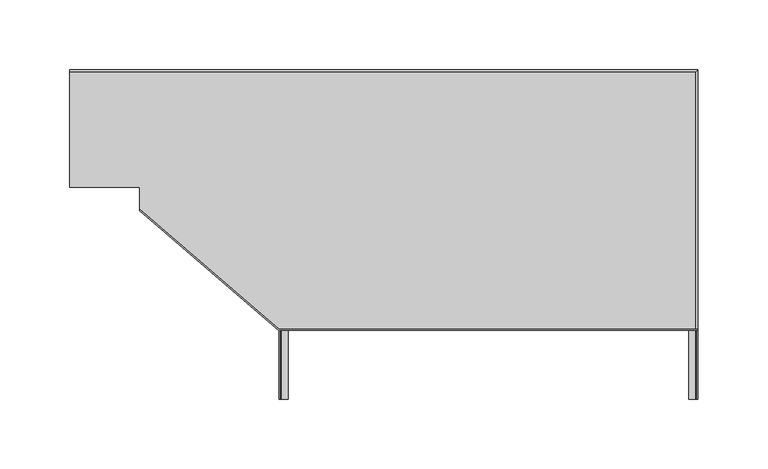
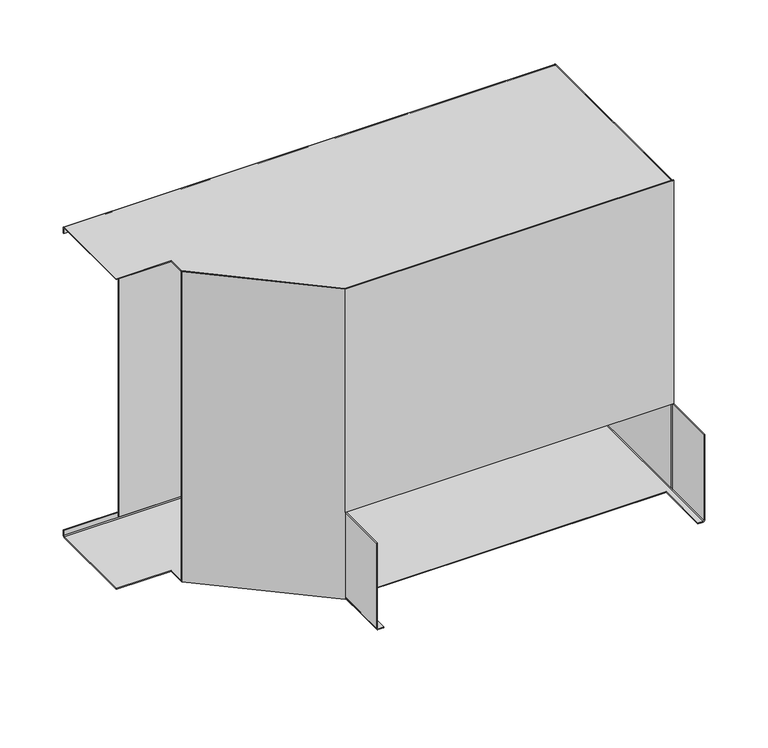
"""IFC4 building model written with IfcOpenShell, lengths in millimetres: cable carrier fitting geometry, КМ Профиль Угол внутренний вертикальный с разворотом трассы на 90 NLPD90-L : Угол внутренний вертикальный с разворотом трассы на 90 NLPD90-L."""

from ifc_helpers import new_model, si_unit, frame, origin, place, context, project, spatial, polyline, circle_curve, ellipse_curve, outline, extrude, faceted_brep, source, transform, mapped, element, save
from ifc_brep_helpers import plane_surface, cylinder_surface, revolved_surface, advanced_brep


def cable_carrier_fitting_ba0ea89d(model_context):
    return source(origin(), model_context, "Body", "SolidModel", [
        faceted_brep([(150.0, -135.8, 150.0), (-150.0, -135.8, 150.0), (-250.0, -50.0, 150.0), (-250.0, -51.0541086, 150.0), (-150.0, -136.8541086, 150.0), (-150.0, -136.6, 150.0), (150.0, -136.6, 150.0), (150.0, -135.8, -66.0), (150.0, -136.6, -66.0), (-150.0, -136.6, -66.0), (-150.0, -135.8, -66.0), (-150.0, -135.8, -150.0), (-150.0, -136.8541086, -150.0), (-250.0, -51.0541086, -150.0), (-250.0, -50.0, -150.0)], [[[0, 1, 2, 3, 4, 5, 6]], [[7, 8, 9, 10]], [[1, 0, 7, 10]], [[6, 5, 9, 8]], [[0, 6, 8, 7]], [[11, 12, 13, 14]], [[2, 1, 10, 11, 14]], [[3, 2, 14, 13]], [[4, 3, 13, 12]], [[12, 11, 10, 9, 5, 4]]]),
        extrude(outline(polyline([(-250.0, 48.4), (-250.0, 49.2), (149.2, 49.2), (149.2, -135.8), (148.4, -135.8), (148.4, 48.4), (-250.0, 48.4)])), frame((0.0, 0.0, -147.4), z_axis=(0.0, 0.0, 1.0), x_axis=(1.0, 0.0, 0.0)), (0.0, 0.0, 1.0), 294.8),
        advanced_brep(
        [(-250.0, -34.0, 150.0), (-300.0, -34.0, 150.0), (-300.0, -34.0, 149.2), (-250.0, -34.0, 149.2), (-250.0, -50.0, 150.0), (-150.0, -135.8, 150.0), (148.2, -135.8, 150.0), (148.2, 48.2, 150.0), (-300.0, 48.2, 150.0), (-300.0, 50.0, 148.2), (-300.0, 50.0, 143.5), (-300.0, 49.2, 143.5), (-300.0, 49.2, 148.2), (-300.0, 48.2, 149.2), (148.2, 48.2, 149.2), (148.2, -135.8, 149.2), (-150.0, -135.8, 149.2), (-250.0, -50.0, 149.2), (149.2, 49.2, 143.5), (149.2, 49.2, 148.2), (150.0, 50.0, 148.2), (150.0, 50.0, 143.5), (150.0, -135.8, 143.5), (149.2, -135.8, 143.5), (149.2, -135.8, 148.2), (150.0, -135.8, 148.2)],
        [
            (0, 1),
            (1, 2),
            (2, 3),
            (3, 0),
            (0, 4),
            (4, 5),
            (5, 6),
            (6, 7),
            (7, 8),
            (8, 1),
            (8, 9, circle_curve(frame((-300.0, 48.2, 148.2), z_axis=(-1.0, 0.0, 0.0), x_axis=(0.0, 1.0, 0.0)), 1.8)),
            (9, 10),
            (10, 11),
            (11, 12),
            (12, 13, circle_curve(frame((-300.0, 48.2, 148.2), z_axis=(1.0, 0.0, 0.0), x_axis=(0.0, 1.0, 0.0)), 1.0)),
            (13, 2),
            (13, 14),
            (14, 15),
            (15, 16),
            (16, 17),
            (17, 3),
            (11, 18),
            (18, 19),
            (19, 12),
            (19, 14, ellipse_curve(frame((148.2, 48.2, 148.2), z_axis=(0.7071067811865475, -0.7071067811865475, 0.0), x_axis=(0.7071067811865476, 0.7071067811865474, 0.0)), 1.4142136, 1.0)),
            (7, 20, ellipse_curve(frame((148.2, 48.2, 148.2), z_axis=(-0.7071067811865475, 0.7071067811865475, 0.0), x_axis=(-0.7071067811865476, -0.7071067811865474, 0.0)), 2.5455844, 1.8)),
            (20, 9),
            (20, 21),
            (21, 10),
            (21, 22),
            (22, 23),
            (23, 18),
            (15, 24, circle_curve(frame((148.2, -135.8, 148.2), z_axis=(0.0, 1.0, 0.0), x_axis=(1.0, 0.0, 0.0)), 1.0)),
            (24, 23),
            (22, 25),
            (25, 6, circle_curve(frame((148.2, -135.8, 148.2), z_axis=(0.0, -1.0, 0.0), x_axis=(1.0, 0.0, 0.0)), 1.8)),
            (5, 16),
            (24, 19),
            (25, 20),
            (4, 17),
        ],
        [
            plane_surface(frame((-300.0, -34.0, 150.0), z_axis=(0.0, -1.0, 0.0), x_axis=(-1.0, 0.0, 0.0))),
            plane_surface(frame((-250.0, -34.0, 150.0), z_axis=(0.0, 0.0, 1.0), x_axis=(0.0, 1.0, 0.0))),
            plane_surface(frame((-300.0, -34.0, 150.0), z_axis=(-1.0, 0.0, 0.0), x_axis=(0.0, 1.0, 0.0))),
            plane_surface(frame((-300.0, -34.0, 149.2), z_axis=(0.0, 0.0, -1.0), x_axis=(0.0, 1.0, 0.0))),
            plane_surface(frame((-300.0, 49.2, 143.5), z_axis=(0.0, -1.0, 0.0), x_axis=(1.0, 0.0, 0.0))),
            revolved_surface(polyline([(149.20000002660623, 49.2, 148.2), (-300.0, 49.2, 148.2)]), (-300.0, 48.2, 148.2), (1.0, 0.0, 0.0)),
            cylinder_surface(frame((-300.0, 48.2, 148.2), z_axis=(-1.0, 0.0, 0.0), x_axis=(0.0, 1.0, 0.0)), 1.8),
            plane_surface(frame((-300.0, 50.0, 148.2), z_axis=(0.0, 1.0, 0.0), x_axis=(1.0, 0.0, 0.0))),
            plane_surface(frame((-300.0, 50.0, 143.5), z_axis=(0.0, 0.0, -1.0), x_axis=(1.0, 0.0, 0.0))),
            plane_surface(frame((150.0, -135.8, 0.0), z_axis=(0.0, -1.0, 0.0), x_axis=(0.0, 0.0, 1.0))),
            plane_surface(frame((149.2, 49.2, 143.5), z_axis=(-1.0, 0.0, 0.0), x_axis=(0.0, -1.0, 0.0))),
            revolved_surface(polyline([(149.2, -135.8, 148.2), (149.2, 49.20000002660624, 148.2)]), (148.2, 50.0, 148.2), (0.0, -1.0, 0.0)),
            cylinder_surface(frame((148.2, 50.0, 148.2), z_axis=(0.0, 1.0, 0.0), x_axis=(1.0, 0.0, 0.0)), 1.8),
            plane_surface(frame((150.0, 50.0, 148.2), z_axis=(1.0, 0.0, 0.0), x_axis=(0.0, -1.0, 0.0))),
            plane_surface(frame((-250.0, -50.0, 150.0), z_axis=(-0.6511662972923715, -0.7589350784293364, 0.0), x_axis=(0.0, 0.0, -1.0))),
            plane_surface(frame((-250.0, 43.5, 150.0), z_axis=(-1.0, 0.0, 0.0), x_axis=(0.0, 0.0, -1.0))),
        ],
        [
            (0, [[1, 2, 3, 4]]),
            (1, [[-1, 5, 6, 7, 8, 9, 10]]),
            (2, [[-2, -10, 11, 12, 13, 14, 15, 16]]),
            (3, [[-3, -16, 17, 18, 19, 20, 21]]),
            (4, [[-14, 22, 23, 24]]),
            (5, [[-15, -24, 25, -17]]),
            (6, [[-11, -9, 26, 27]]),
            (7, [[-12, -27, 28, 29]]),
            (8, [[-13, -29, 30, 31, 32, -22]]),
            (9, [[-19, 33, 34, -31, 35, 36, -7, 37]]),
            (10, [[-23, -32, -34, 38]]),
            (11, [[-25, -38, -33, -18]]),
            (12, [[-8, -36, 39, -26]]),
            (13, [[-28, -39, -35, -30]]),
            (14, [[-6, 40, -20, -37]]),
            (15, [[-40, -5, -4, -21]]),
        ],
    ),
        advanced_brep(
        [(-250.0, -34.0, -149.2), (-300.0, -34.0, -149.2), (-300.0, -34.0, -150.0), (-250.0, -34.0, -150.0), (-300.0, 48.2, -149.2), (-300.0, 49.2, -148.2), (-300.0, 49.2, -143.5), (-300.0, 50.0, -143.5), (-300.0, 50.0, -148.2), (-300.0, 48.2, -150.0), (-250.0, -50.0, -149.2), (-150.0, -135.8, -149.2), (-149.696663, -135.8, -149.2), (-148.2, -135.8, -149.2), (-148.2, -185.8, -149.2), (-143.5, -185.8, -149.2), (-143.5, -135.8, -149.2), (143.5, -135.8, -149.2), (143.5, -185.8, -149.2), (148.2, -185.8, -149.2), (148.2, -135.8, -149.2), (148.2, 48.2, -149.2), (148.2, 48.2, -150.0), (148.2, -135.8, -150.0), (148.2, -185.8, -150.0), (143.5, -185.8, -150.0), (143.5, -135.8, -150.0), (-143.5, -135.8, -150.0), (-143.5, -185.8, -150.0), (-148.2, -185.8, -150.0), (-148.2, -135.8, -150.0), (-150.0, -135.8, -150.0), (-250.0, -50.0, -150.0), (149.2, 49.2, -143.5), (149.2, -135.8, -143.5), (150.0, -135.8, -143.5), (150.0, 50.0, -143.5), (150.0, 50.0, -148.2), (149.2, 49.2, -148.2), (150.0, -135.8, -66.0), (150.0, -185.8, -66.0), (150.0, -185.8, -148.2), (150.0, -135.8, -148.2), (149.2, -135.8, -148.2), (149.2, -185.8, -148.2), (149.2, -185.8, -66.0), (149.2, -135.8, -66.0), (-149.2, -135.8, -66.0), (-150.0, -135.8, -66.0), (-150.0, -185.8, -66.0), (-149.2, -185.8, -66.0), (-149.2, -135.8, -148.2), (-150.0, -135.8, -148.2), (-150.0, -185.8, -148.2), (-149.2, -185.8, -148.2)],
        [
            (0, 1),
            (1, 2),
            (2, 3),
            (3, 0),
            (1, 4),
            (4, 5, circle_curve(frame((-300.0, 48.2, -148.2), z_axis=(1.0, 0.0, 0.0), x_axis=(0.0, 1.0, 0.0)), 1.0)),
            (5, 6),
            (6, 7),
            (7, 8),
            (8, 9, circle_curve(frame((-300.0, 48.2, -148.2), z_axis=(-1.0, 0.0, 0.0), x_axis=(0.0, 1.0, 0.0)), 1.8)),
            (9, 2),
            (0, 10),
            (10, 11),
            (11, 12),
            (12, 13),
            (13, 14),
            (14, 15),
            (15, 16),
            (16, 17),
            (17, 18),
            (18, 19),
            (19, 20),
            (20, 21),
            (21, 4),
            (9, 22),
            (22, 23),
            (23, 24),
            (24, 25),
            (25, 26),
            (26, 27),
            (27, 28),
            (28, 29),
            (29, 30),
            (30, 31),
            (31, 32),
            (32, 3),
            (6, 33),
            (33, 34),
            (34, 35),
            (35, 36),
            (36, 7),
            (36, 37),
            (37, 8),
            (37, 22, ellipse_curve(frame((148.2, 48.2, -148.2), z_axis=(-0.7071067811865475, 0.7071067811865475, 0.0), x_axis=(-0.7071067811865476, -0.7071067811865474, 0.0)), 2.5455844, 1.8)),
            (21, 38, ellipse_curve(frame((148.2, 48.2, -148.2), z_axis=(0.7071067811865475, -0.7071067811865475, 0.0), x_axis=(0.7071067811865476, 0.7071067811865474, 0.0)), 1.4142136, 1.0)),
            (38, 5),
            (38, 33),
            (35, 39),
            (39, 40),
            (40, 41),
            (41, 42),
            (42, 37),
            (42, 23, circle_curve(frame((148.2, -135.8, -148.2), z_axis=(0.0, 1.0, 0.0), x_axis=(1.0, 0.0, 0.0)), 1.8)),
            (25, 18),
            (17, 26),
            (20, 43, circle_curve(frame((148.2, -135.8, -148.2), z_axis=(0.0, -1.0, 0.0), x_axis=(1.0, 0.0, 0.0)), 1.0)),
            (43, 38),
            (43, 44),
            (44, 45),
            (45, 46),
            (46, 34),
            (47, 48),
            (48, 49),
            (49, 50),
            (50, 47),
            (39, 46),
            (45, 40),
            (47, 51),
            (51, 13, circle_curve(frame((-148.2, -135.8, -148.2), z_axis=(0.0, -1.0, 0.0), x_axis=(1.0, 0.0, 0.0)), 1.0)),
            (12, 52, circle_curve(frame((-148.2, -135.8, -148.2), z_axis=(0.0, 1.0, 0.0), x_axis=(1.0, 0.0, 0.0)), 1.8)),
            (52, 48),
            (52, 53),
            (53, 49),
            (53, 29, circle_curve(frame((-148.2, -185.8, -148.2), z_axis=(0.0, -1.0, 0.0), x_axis=(1.0, 0.0, 0.0)), 1.8)),
            (28, 15),
            (14, 54, circle_curve(frame((-148.2, -185.8, -148.2), z_axis=(0.0, 1.0, 0.0), x_axis=(1.0, 0.0, 0.0)), 1.0)),
            (54, 50),
            (44, 19, circle_curve(frame((148.2, -185.8, -148.2), z_axis=(0.0, 1.0, 0.0), x_axis=(1.0, 0.0, 0.0)), 1.0)),
            (24, 41, circle_curve(frame((148.2, -185.8, -148.2), z_axis=(0.0, -1.0, 0.0), x_axis=(1.0, 0.0, 0.0)), 1.8)),
            (54, 51),
            (12, 30, circle_curve(frame((-148.2, -135.8, -148.2), z_axis=(0.0, -1.0, 0.0), x_axis=(1.0, 0.0, 0.0)), 1.8)),
            (27, 16),
            (10, 32),
            (31, 11),
        ],
        [
            plane_surface(frame((-300.0, -34.0, 150.0), z_axis=(0.0, -1.0, 0.0), x_axis=(-1.0, 0.0, 0.0))),
            plane_surface(frame((-300.0, -34.0, 150.0), z_axis=(-1.0, 0.0, 0.0), x_axis=(0.0, 1.0, 0.0))),
            plane_surface(frame((-250.0, -34.0, -149.2), z_axis=(0.0, 0.0, 1.0), x_axis=(0.0, 1.0, 0.0))),
            plane_surface(frame((-300.0, -34.0, -150.0), z_axis=(0.0, 0.0, -1.0), x_axis=(0.0, 1.0, 0.0))),
            plane_surface(frame((-300.0, 49.2, -143.5), z_axis=(0.0, 0.0, 1.0), x_axis=(1.0, 0.0, 0.0))),
            plane_surface(frame((-300.0, 50.0, -143.5), z_axis=(0.0, 1.0, 0.0), x_axis=(1.0, 0.0, 0.0))),
            cylinder_surface(frame((-300.0, 48.2, -148.2), z_axis=(-1.0, 0.0, 0.0), x_axis=(0.0, 1.0, 0.0)), 1.8),
            revolved_surface(polyline([(149.20000002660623, 49.2, -148.2), (-300.0, 49.2, -148.2)]), (-300.0, 48.2, -148.2), (1.0, 0.0, 0.0)),
            plane_surface(frame((-300.0, 49.2, -148.2), z_axis=(0.0, -1.0, 0.0), x_axis=(1.0, 0.0, 0.0))),
            plane_surface(frame((150.0, 50.0, -143.5), z_axis=(1.0, 0.0, 0.0), x_axis=(0.0, -1.0, 0.0))),
            cylinder_surface(frame((148.2, 50.0, -148.2), z_axis=(0.0, 1.0, 0.0), x_axis=(1.0, 0.0, 0.0)), 1.8),
            plane_surface(frame((143.5, 43.5, -150.0), z_axis=(-1.0, 0.0, 0.0), x_axis=(0.0, -1.0, 0.0))),
            revolved_surface(polyline([(149.2, -135.8, -148.2), (149.2, 49.20000002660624, -148.2)]), (148.2, 50.0, -148.2), (0.0, -1.0, 0.0)),
            plane_surface(frame((149.2, 49.2, -148.2), z_axis=(-1.0, 0.0, 0.0), x_axis=(0.0, -1.0, 0.0))),
            plane_surface(frame((-150.0, -135.8, -66.0), z_axis=(0.0, 0.0, 1.0), x_axis=(-1.0, 0.0, 0.0))),
            plane_surface(frame((-149.2, -135.8, -66.0), z_axis=(0.0, 1.0, 0.0), x_axis=(0.0, 0.0, -1.0))),
            plane_surface(frame((-150.0, -135.8, -66.0), z_axis=(-1.0, 0.0, 0.0), x_axis=(0.0, 0.0, -1.0))),
            plane_surface(frame((-150.0, -185.8, -66.0), z_axis=(0.0, -1.0, 0.0), x_axis=(0.0, 0.0, -1.0))),
            plane_surface(frame((-149.2, -185.8, -66.0), z_axis=(1.0, 0.0, 0.0), x_axis=(0.0, 0.0, -1.0))),
            plane_surface(frame((150.0, -135.8, -66.0), z_axis=(0.0, 1.0, 0.0), x_axis=(0.0, 0.0, -1.0))),
            revolved_surface(polyline([(149.2, -185.8, -148.2), (149.2, -135.8, -148.2)]), (148.2, -135.8, -148.2), (0.0, -1.0, 0.0)),
            cylinder_surface(frame((148.2, -135.8, -148.2), z_axis=(0.0, 1.0, 0.0), x_axis=(1.0, 0.0, 0.0)), 1.8),
            cylinder_surface(frame((-148.2, -135.8, -148.2), z_axis=(0.0, 1.0, 0.0), x_axis=(1.0, 0.0, 0.0)), 1.8),
            revolved_surface(polyline([(-147.2, -185.8, -148.2), (-147.2, -135.8, -148.2)]), (-148.2, -135.8, -148.2), (0.0, -1.0, 0.0)),
            plane_surface(frame((-143.5, -135.8, -149.2), z_axis=(1.0, 0.0, 0.0), x_axis=(0.0, -1.0, 0.0))),
            plane_surface(frame((-250.0, -50.0, -149.2), z_axis=(-0.6511662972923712, -0.7589350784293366, 0.0), x_axis=(0.0, 0.0, -1.0))),
            plane_surface(frame((-150.0, -135.8, -149.2), z_axis=(0.0, -1.0, 0.0), x_axis=(0.0, 0.0, -1.0))),
            plane_surface(frame((-250.0, 43.5, -149.2), z_axis=(-1.0, 0.0, 0.0), x_axis=(0.0, 0.0, -1.0))),
        ],
        [
            (0, [[1, 2, 3, 4]]),
            (1, [[-2, 5, 6, 7, 8, 9, 10, 11]]),
            (2, [[-1, 12, 13, 14, 15, 16, 17, 18, 19, 20, 21, 22, 23, 24, -5]]),
            (3, [[-3, -11, 25, 26, 27, 28, 29, 30, 31, 32, 33, 34, 35, 36]]),
            (4, [[-8, 37, 38, 39, 40, 41]]),
            (5, [[-9, -41, 42, 43]]),
            (6, [[-10, -43, 44, -25]]),
            (7, [[-6, -24, 45, 46]]),
            (8, [[-7, -46, 47, -37]]),
            (9, [[-40, 48, 49, 50, 51, 52, -42]]),
            (10, [[-44, -52, 53, -26]]),
            (11, [[54, -20, 55, -29]]),
            (12, [[-23, 56, 57, -45]]),
            (13, [[-38, -47, -57, 58, 59, 60, 61]]),
            (14, [[62, 63, 64, 65]]),
            (14, [[66, -60, 67, -49]]),
            (15, [[-62, 68, 69, -15, 70, 71]]),
            (16, [[-63, -71, 72, 73]]),
            (17, [[-64, -73, 74, -32, 75, -17, 76, 77]]),
            (17, [[-67, -59, 78, -21, -54, -28, 79, -50]]),
            (18, [[-65, -77, 80, -68]]),
            (19, [[-66, -48, -39, -61]]),
            (20, [[-78, -58, -56, -22]]),
            (21, [[-79, -27, -53, -51]]),
            (22, [[-74, -72, -70, 81, -33]]),
            (23, [[-69, -80, -76, -16]]),
            (24, [[-75, -31, 82, -18]]),
            (25, [[-13, 83, -35, 84]]),
            (26, [[-19, -82, -30, -55]]),
            (26, [[-84, -34, -81, -14]]),
            (27, [[-83, -12, -4, -36]]),
        ],
    ),
    ])


if __name__ == "__main__":
    model = new_model("IFC4")
    model_context = context("Model", 3, world=origin())
    ifc_project = project(units=[si_unit("LENGTHUNIT", "METRE", prefix="MILLI")], contexts=[model_context])
    site = spatial("IfcSite", under=ifc_project)
    building = spatial("IfcBuilding", under=site)
    placement = place(None, origin())
    cable_carrier_fitting_shape = cable_carrier_fitting_ba0ea89d(model_context)
    element("IfcCableCarrierFitting", 1, ObjectType="КМ Профиль Угол внутренний вертикальный с разворотом трассы на 90 NLPD90-L : Угол внутренний вертикальный с разворотом трассы на 90 NLPD90-L", at=placement, inside=building, context=model_context, shape_type="MappedRepresentation", body=[
        mapped(cable_carrier_fitting_shape, transform((0.0, 0.0, 0.0), x_axis=(1.0, 0.0, 0.0), y_axis=(0.0, 1.0, 0.0), z_axis=(0.0, 0.0, 1.0))),
    ])
    save(model, "model.ifc")
